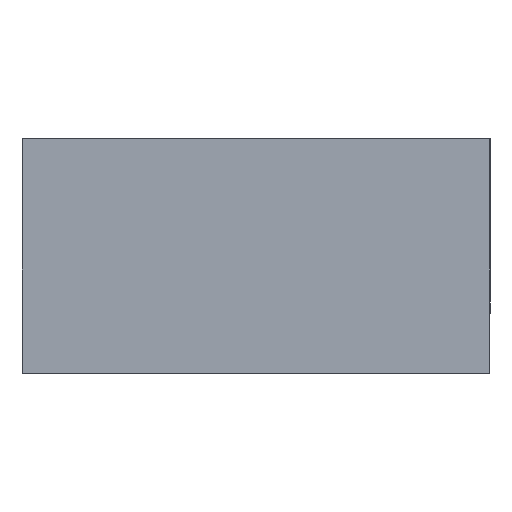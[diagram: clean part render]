
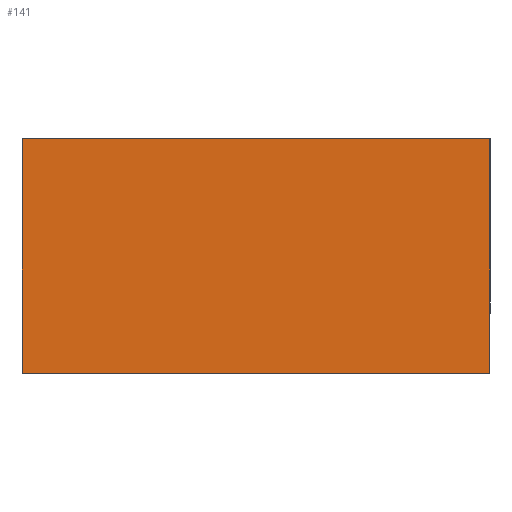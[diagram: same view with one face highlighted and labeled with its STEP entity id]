
A CAD part, top view. The second image highlights one B-rep face of the part: STEP entity #141.
In plain terms, the highlighted planar face has unit normal (0, 0, 1).
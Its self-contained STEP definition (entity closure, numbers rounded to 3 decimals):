
#6 = VERTEX_POINT ( 'NONE', #644 ) ;
#60 = VERTEX_POINT ( 'NONE', #454 ) ;
#67 = EDGE_CURVE ( 'NONE', #6, #60, #647, .T. ) ;
#108 = EDGE_CURVE ( 'NONE', #6, #587, #574, .T. ) ;
#141 = ADVANCED_FACE ( 'NONE', ( #464 ), #293, .F. ) ;
#292 = DIRECTION ( 'NONE',  ( -1., 0., 0. ) ) ;
#293 = PLANE ( 'NONE',  #541 ) ;
#298 = CARTESIAN_POINT ( 'NONE',  ( 0., 50.4, 0. ) ) ;
#301 = VECTOR ( 'NONE', #393, 1000. ) ;
#302 = LINE ( 'NONE', #440, #301 ) ;
#325 = DIRECTION ( 'NONE',  ( 0., 0., -1. ) ) ;
#374 = DIRECTION ( 'NONE',  ( 1., 0., 0. ) ) ;
#381 = CARTESIAN_POINT ( 'NONE',  ( 0., 50.4, 0. ) ) ;
#393 = DIRECTION ( 'NONE',  ( 0., -1., 0. ) ) ;
#416 = LINE ( 'NONE', #678, #428 ) ;
#420 = CARTESIAN_POINT ( 'NONE',  ( 103.4, 50.4, 0. ) ) ;
#428 = VECTOR ( 'NONE', #668, 1000. ) ;
#429 = ORIENTED_EDGE ( 'NONE', *, *, #67, .T. ) ;
#440 = CARTESIAN_POINT ( 'NONE',  ( 103.4, 50.4, 0. ) ) ;
#453 = EDGE_CURVE ( 'NONE', #481, #60, #416, .T. ) ;
#454 = CARTESIAN_POINT ( 'NONE',  ( 0., -1.5, 0. ) ) ;
#460 = CARTESIAN_POINT ( 'NONE',  ( 0., 50.4, 0. ) ) ;
#464 = FACE_OUTER_BOUND ( 'NONE', #590, .T. ) ;
#468 = ORIENTED_EDGE ( 'NONE', *, *, #453, .F. ) ;
#481 = VERTEX_POINT ( 'NONE', #603 ) ;
#490 = DIRECTION ( 'NONE',  ( 0., -1., 0. ) ) ;
#508 = ORIENTED_EDGE ( 'NONE', *, *, #592, .F. ) ;
#523 = VECTOR ( 'NONE', #374, 1000. ) ;
#530 = ORIENTED_EDGE ( 'NONE', *, *, #108, .F. ) ;
#541 = AXIS2_PLACEMENT_3D ( 'NONE', #298, #325, #292 ) ;
#574 = LINE ( 'NONE', #381, #523 ) ;
#587 = VERTEX_POINT ( 'NONE', #420 ) ;
#590 = EDGE_LOOP ( 'NONE', ( #429, #468, #508, #530 ) ) ;
#592 = EDGE_CURVE ( 'NONE', #587, #481, #302, .T. ) ;
#603 = CARTESIAN_POINT ( 'NONE',  ( 103.4, -1.5, 0. ) ) ;
#637 = VECTOR ( 'NONE', #490, 1000. ) ;
#644 = CARTESIAN_POINT ( 'NONE',  ( 0., 50.4, 0. ) ) ;
#647 = LINE ( 'NONE', #460, #637 ) ;
#668 = DIRECTION ( 'NONE',  ( -1., 0., 0. ) ) ;
#678 = CARTESIAN_POINT ( 'NONE',  ( 0., -1.5, 0. ) ) ;
